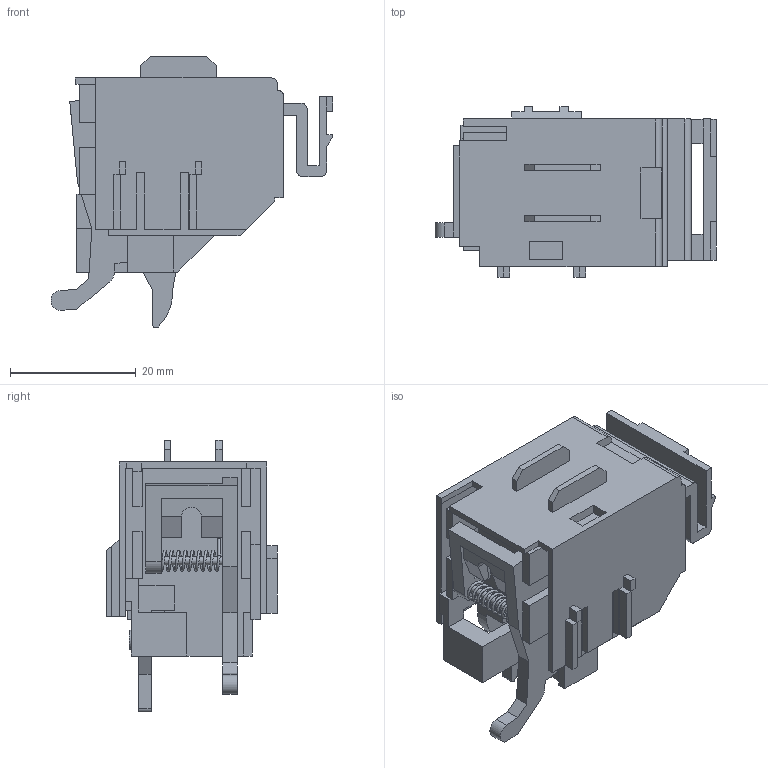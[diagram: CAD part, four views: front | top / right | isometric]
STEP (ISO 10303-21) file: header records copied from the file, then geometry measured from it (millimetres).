
FILE_DESCRIPTION(/* description */ (''),/* implementation_level */ '2;1');
FILE_NAME(/* name */ '2024.01.19.stp',/* time_stamp */ '2024-01-19T16:26:37+08:00',/* author */ (''),/* organization */ (''),/* preprocessor_version */ 'ST-DEVELOPER v16',/* originating_system */ 'SIEMENS PLM Software NX 10.0',/* authorisation */ '');
FILE_SCHEMA (('AUTOMOTIVE_DESIGN { 1 0 10303 214 3 1 1 1 }'));
Length unit declared in the file: millimetre
Products named in the file (1): midi03D4D171hfd9
Bounding box: 44.89 x 27.2 x 43.31 mm (x, y, z)
Volume: 16362.6 mm3; surface area: 8784.3 mm2
Topology: 1 solids, 1 shells, 278 faces, 818 edges, 540 vertices
Faces by surface type: plane 256, cylinder 21, bspline 1
Full cylindrical faces by diameter (mm): 0.4 x1, 1.3 x1, 1.4 x1, 3 x2
Entity records: 10221 total; most frequent: CARTESIAN_POINT 2774, ORIENTED_EDGE 1614, DIRECTION 1406, EDGE_CURVE 807, LINE 758, VECTOR 758, VERTEX_POINT 538, AXIS2_PLACEMENT_3D 324
